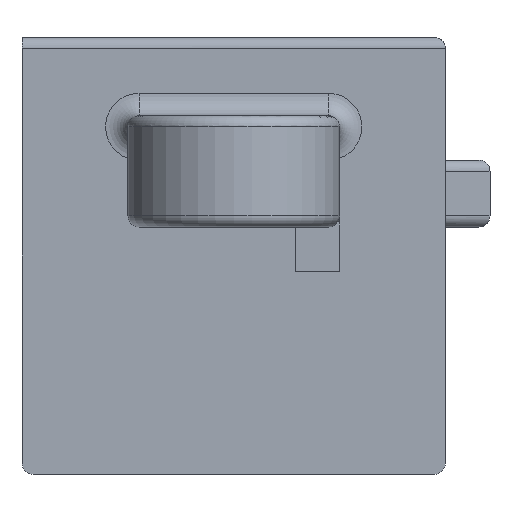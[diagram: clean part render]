
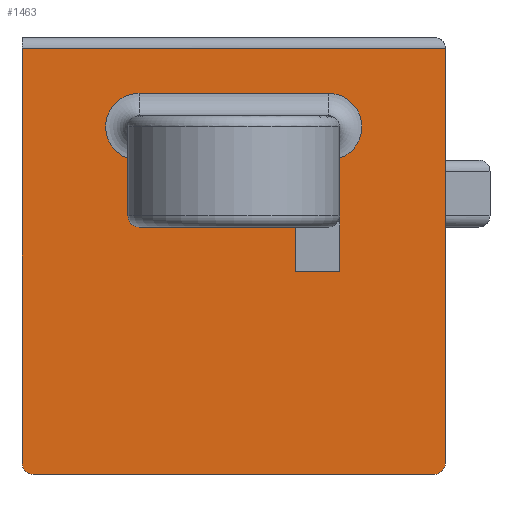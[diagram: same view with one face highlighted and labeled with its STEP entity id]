
A CAD part, left-side view. The second image highlights one B-rep face of the part: STEP entity #1463.
In plain terms, the highlighted planar face has unit normal (-1, 0, 0).
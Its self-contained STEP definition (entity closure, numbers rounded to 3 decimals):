
#1463=ADVANCED_FACE('',(#3620,#3621),#1928,.F.);
#1928=PLANE('',#8879);
#2147=LINE('',#12245,#2883);
#2151=LINE('',#12253,#2887);
#2152=LINE('',#12256,#2888);
#2153=LINE('',#12258,#2889);
#2154=LINE('',#12262,#2890);
#2155=LINE('',#12265,#2891);
#2156=LINE('',#12270,#2892);
#2157=LINE('',#12272,#2893);
#2158=LINE('',#12274,#2894);
#2159=LINE('',#12277,#2895);
#2883=VECTOR('',#9754,1.);
#2887=VECTOR('',#9760,1.);
#2888=VECTOR('',#9761,1.);
#2889=VECTOR('',#9762,1.);
#2890=VECTOR('',#9765,1.);
#2891=VECTOR('',#9768,1.);
#2892=VECTOR('',#9771,1.);
#2893=VECTOR('',#9772,1.);
#2894=VECTOR('',#9773,1.);
#2895=VECTOR('',#9776,1.);
#3620=FACE_BOUND('',#3709,.T.);
#3621=FACE_BOUND('',#3710,.T.);
#3709=EDGE_LOOP('',(#4224,#4225,#4226,#4227,#4228,#4229));
#3710=EDGE_LOOP('',(#4230,#4231,#4232,#4233,#4234,#4235,#4236,#4237,#4238));
#4224=ORIENTED_EDGE('',*,*,#7319,.F.);
#4225=ORIENTED_EDGE('',*,*,#7320,.T.);
#4226=ORIENTED_EDGE('',*,*,#7321,.T.);
#4227=ORIENTED_EDGE('',*,*,#7322,.T.);
#4228=ORIENTED_EDGE('',*,*,#7323,.T.);
#4229=ORIENTED_EDGE('',*,*,#7324,.T.);
#4230=ORIENTED_EDGE('',*,*,#7325,.T.);
#4231=ORIENTED_EDGE('',*,*,#7326,.T.);
#4232=ORIENTED_EDGE('',*,*,#7327,.T.);
#4233=ORIENTED_EDGE('',*,*,#7328,.F.);
#4234=ORIENTED_EDGE('',*,*,#7329,.T.);
#4235=ORIENTED_EDGE('',*,*,#7315,.F.);
#4236=ORIENTED_EDGE('',*,*,#7330,.T.);
#4237=ORIENTED_EDGE('',*,*,#7331,.F.);
#4238=ORIENTED_EDGE('',*,*,#7332,.T.);
#6570=VERTEX_POINT('',#12244);
#6571=VERTEX_POINT('',#12246);
#6574=VERTEX_POINT('',#12254);
#6575=VERTEX_POINT('',#12255);
#6576=VERTEX_POINT('',#12257);
#6577=VERTEX_POINT('',#12259);
#6578=VERTEX_POINT('',#12261);
#6579=VERTEX_POINT('',#12263);
#6580=VERTEX_POINT('',#12266);
#6581=VERTEX_POINT('',#12267);
#6582=VERTEX_POINT('',#12269);
#6583=VERTEX_POINT('',#12271);
#6584=VERTEX_POINT('',#12273);
#6585=VERTEX_POINT('',#12276);
#6586=VERTEX_POINT('',#12278);
#7315=EDGE_CURVE('',#6570,#6571,#2147,.T.);
#7319=EDGE_CURVE('',#6574,#6575,#2151,.T.);
#7320=EDGE_CURVE('',#6574,#6576,#2152,.T.);
#7321=EDGE_CURVE('',#6576,#6577,#2153,.T.);
#7322=EDGE_CURVE('',#6577,#6578,#8489,.T.);
#7323=EDGE_CURVE('',#6578,#6579,#2154,.T.);
#7324=EDGE_CURVE('',#6579,#6575,#8490,.T.);
#7325=EDGE_CURVE('',#6580,#6581,#2155,.T.);
#7326=EDGE_CURVE('',#6581,#6582,#8491,.T.);
#7327=EDGE_CURVE('',#6582,#6583,#2156,.T.);
#7328=EDGE_CURVE('',#6584,#6583,#2157,.T.);
#7329=EDGE_CURVE('',#6584,#6571,#2158,.T.);
#7330=EDGE_CURVE('',#6570,#6585,#8492,.T.);
#7331=EDGE_CURVE('',#6586,#6585,#2159,.T.);
#7332=EDGE_CURVE('',#6586,#6580,#8493,.T.);
#8489=CIRCLE('',#8874,0.5);
#8490=CIRCLE('',#8875,0.5);
#8491=CIRCLE('',#8876,1.5);
#8492=CIRCLE('',#8877,0.5);
#8493=CIRCLE('',#8878,1.5);
#8874=AXIS2_PLACEMENT_3D('',#12260,#9763,#9764);
#8875=AXIS2_PLACEMENT_3D('',#12264,#9766,#9767);
#8876=AXIS2_PLACEMENT_3D('',#12268,#9769,#9770);
#8877=AXIS2_PLACEMENT_3D('',#12275,#9774,#9775);
#8878=AXIS2_PLACEMENT_3D('',#12279,#9777,#9778);
#8879=AXIS2_PLACEMENT_3D('',#12280,#9779,#9780);
#9754=DIRECTION('',(0.,-1.,0.));
#9760=DIRECTION('',(0.,0.,-1.));
#9761=DIRECTION('',(0.,1.,0.));
#9762=DIRECTION('',(0.,0.,-1.));
#9763=DIRECTION('',(-1.,0.,0.));
#9764=DIRECTION('',(0.,1.,0.));
#9765=DIRECTION('',(0.,-1.,0.));
#9766=DIRECTION('',(-1.,0.,0.));
#9767=DIRECTION('',(0.,1.,0.));
#9768=DIRECTION('',(0.,-1.,0.));
#9769=DIRECTION('',(1.,0.,0.));
#9770=DIRECTION('',(0.,1.,0.));
#9771=DIRECTION('',(0.,0.,-1.));
#9772=DIRECTION('',(0.,-1.,0.));
#9773=DIRECTION('',(0.,0.,1.));
#9774=DIRECTION('',(1.,0.,0.));
#9775=DIRECTION('',(0.,1.,0.));
#9776=DIRECTION('',(0.,0.,-1.));
#9777=DIRECTION('',(1.,0.,0.));
#9778=DIRECTION('',(0.,1.,0.));
#9779=DIRECTION('',(1.,0.,0.));
#9780=DIRECTION('',(0.,-1.,0.));
#12244=CARTESIAN_POINT('',(-2.4,5.45,-1.7));
#12245=CARTESIAN_POINT('',(-2.4,0.,-1.7));
#12246=CARTESIAN_POINT('',(-2.4,-1.55,-1.7));
#12253=CARTESIAN_POINT('',(-2.4,-8.3,5.));
#12254=CARTESIAN_POINT('',(-2.4,-8.3,6.3));
#12255=CARTESIAN_POINT('',(-2.4,-8.3,-12.3));
#12256=CARTESIAN_POINT('',(-2.4,0.,6.3));
#12257=CARTESIAN_POINT('',(-2.4,10.7,6.3));
#12258=CARTESIAN_POINT('',(-2.4,10.7,6.8));
#12259=CARTESIAN_POINT('',(-2.4,10.7,-12.3));
#12260=CARTESIAN_POINT('',(-2.4,10.2,-12.3));
#12261=CARTESIAN_POINT('',(-2.4,10.2,-12.8));
#12262=CARTESIAN_POINT('',(-2.4,10.7,-12.8));
#12263=CARTESIAN_POINT('',(-2.4,-7.8,-12.8));
#12264=CARTESIAN_POINT('',(-2.4,-7.8,-12.3));
#12265=CARTESIAN_POINT('',(-2.4,-3.55,4.3));
#12266=CARTESIAN_POINT('',(-2.4,5.45,4.3));
#12267=CARTESIAN_POINT('',(-2.4,-3.05,4.3));
#12268=CARTESIAN_POINT('',(-2.4,-3.05,2.8));
#12269=CARTESIAN_POINT('',(-2.4,-3.55,1.386));
#12270=CARTESIAN_POINT('',(-2.4,-3.55,5.));
#12271=CARTESIAN_POINT('',(-2.4,-3.55,-3.7));
#12272=CARTESIAN_POINT('',(-2.4,-1.55,-3.7));
#12273=CARTESIAN_POINT('',(-2.4,-1.55,-3.7));
#12274=CARTESIAN_POINT('',(-2.4,-1.55,-3.7));
#12275=CARTESIAN_POINT('',(-2.4,5.45,-1.2));
#12276=CARTESIAN_POINT('',(-2.4,5.95,-1.2));
#12277=CARTESIAN_POINT('',(-2.4,5.95,4.3));
#12278=CARTESIAN_POINT('',(-2.4,5.95,1.386));
#12279=CARTESIAN_POINT('',(-2.4,5.45,2.8));
#12280=CARTESIAN_POINT('',(-2.4,0.,5.));
